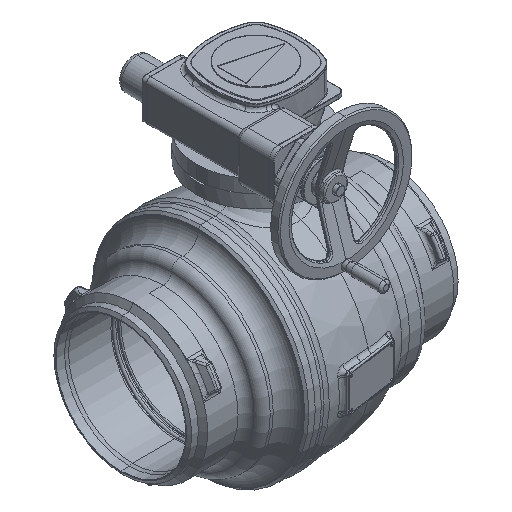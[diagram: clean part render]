
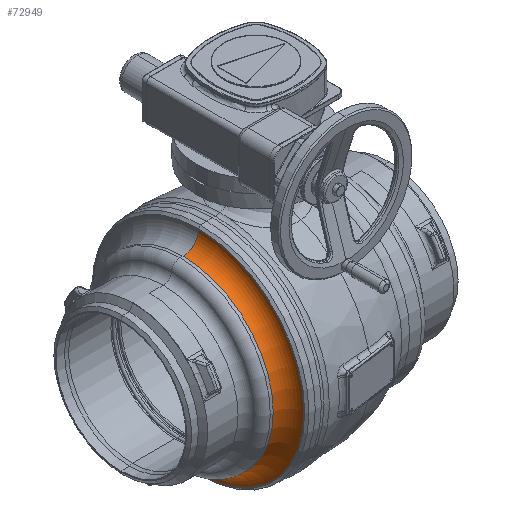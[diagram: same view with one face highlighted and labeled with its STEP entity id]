
A CAD part, isometric view. The second image highlights one B-rep face of the part: STEP entity #72949.
In plain terms, the highlighted toroidal (fillet/blend) face has major radius 248 mm and minor radius 36 mm.
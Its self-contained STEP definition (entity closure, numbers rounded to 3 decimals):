
#18013=CARTESIAN_POINT('',(-171.5,0.,0.));
#18014=DIRECTION('',(1.,0.,0.));
#18015=DIRECTION('',(0.,0.,1.));
#18016=AXIS2_PLACEMENT_3D('',#18013,#18014,#18015);
#18022=CARTESIAN_POINT('',(-171.5,0.,248.));
#18023=DIRECTION('',(0.,-1.,0.));
#18024=DIRECTION('',(0.,0.,-1.));
#18025=AXIS2_PLACEMENT_3D('',#18022,#18023,#18024);
#18027=CARTESIAN_POINT('',(-171.5,0.,-248.));
#18028=DIRECTION('',(0.,1.,0.));
#18029=DIRECTION('',(0.,0.,1.));
#18030=AXIS2_PLACEMENT_3D('',#18027,#18028,#18029);
#18047=CARTESIAN_POINT('',(-135.5,0.,0.));
#18048=DIRECTION('',(1.,0.,0.));
#18049=DIRECTION('',(0.,0.,1.));
#18050=AXIS2_PLACEMENT_3D('',#18047,#18048,#18049);
#36370=CARTESIAN_POINT('',(-171.5,0.,-212.));
#36371=CARTESIAN_POINT('',(-171.5,0.,212.));
#36372=VERTEX_POINT('',#36370);
#36373=VERTEX_POINT('',#36371);
#36374=CARTESIAN_POINT('',(-135.5,0.,-248.));
#36375=CARTESIAN_POINT('',(-135.5,0.,248.));
#36376=VERTEX_POINT('',#36374);
#36377=VERTEX_POINT('',#36375);
#72935=CARTESIAN_POINT('',(-171.5,0.,0.));
#72936=DIRECTION('',(-1.,0.,0.));
#72937=DIRECTION('',(0.,0.,1.));
#72938=AXIS2_PLACEMENT_3D('',#72935,#72936,#72937);
#72939=TOROIDAL_SURFACE('',#72938,248.,36.);
#72940=ORIENTED_EDGE('',*,*,#72929,.F.);
#72942=ORIENTED_EDGE('',*,*,#72941,.T.);
#72944=ORIENTED_EDGE('',*,*,#72943,.T.);
#72946=ORIENTED_EDGE('',*,*,#72945,.F.);
#72947=EDGE_LOOP('',(#72940,#72942,#72944,#72946));
#72948=FACE_OUTER_BOUND('',#72947,.F.);
#72949=ADVANCED_FACE('',(#72948),#72939,.F.);
#18017=CIRCLE('',#18016,212.);
#18026=CIRCLE('',#18025,36.);
#18031=CIRCLE('',#18030,36.);
#18051=CIRCLE('',#18050,248.);
#72929=EDGE_CURVE('',#36373,#36372,#18017,.T.);
#72941=EDGE_CURVE('',#36373,#36377,#18026,.T.);
#72943=EDGE_CURVE('',#36377,#36376,#18051,.T.);
#72945=EDGE_CURVE('',#36372,#36376,#18031,.T.);
